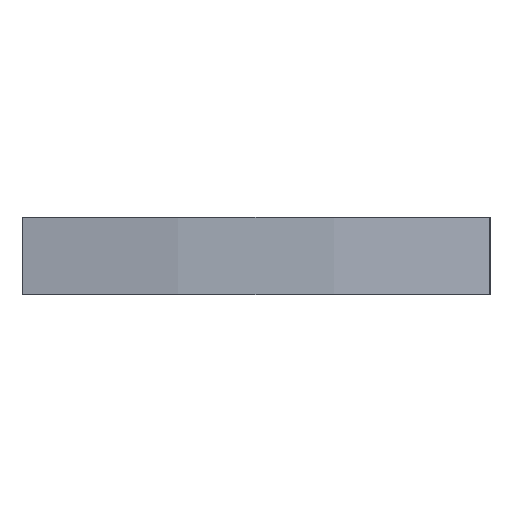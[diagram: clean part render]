
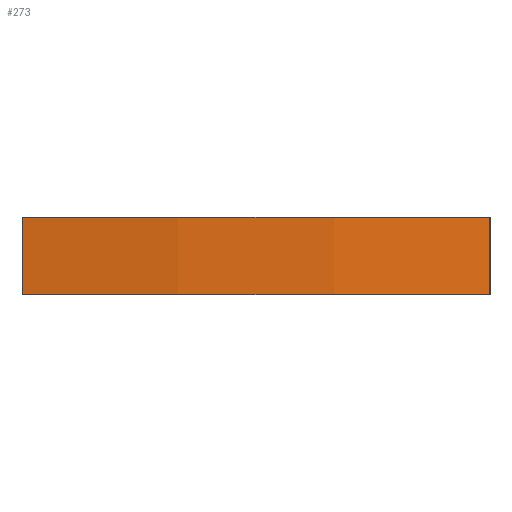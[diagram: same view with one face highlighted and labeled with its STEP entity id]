
A CAD part, left-side view. The second image highlights one B-rep face of the part: STEP entity #273.
In plain terms, the highlighted cylindrical face has radius 50 mm (diameter 100 mm), a partial arc.
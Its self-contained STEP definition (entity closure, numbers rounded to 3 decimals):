
#39=FACE_OUTER_BOUND('',#53,.T.);
#53=EDGE_LOOP('',(#219,#220,#221,#222));
#81=LINE('',#448,#105);
#82=LINE('',#454,#106);
#105=VECTOR('',#371,10.);
#106=VECTOR('',#378,10.);
#125=CIRCLE('',#312,50.);
#126=CIRCLE('',#313,50.);
#143=VERTEX_POINT('',#444);
#144=VERTEX_POINT('',#446);
#145=VERTEX_POINT('',#450);
#146=VERTEX_POINT('',#452);
#175=EDGE_CURVE('',#143,#144,#81,.T.);
#176=EDGE_CURVE('',#145,#143,#125,.T.);
#177=EDGE_CURVE('',#146,#144,#126,.T.);
#178=EDGE_CURVE('',#145,#146,#82,.T.);
#219=ORIENTED_EDGE('',*,*,#176,.T.);
#220=ORIENTED_EDGE('',*,*,#175,.T.);
#221=ORIENTED_EDGE('',*,*,#177,.F.);
#222=ORIENTED_EDGE('',*,*,#178,.F.);
#264=CYLINDRICAL_SURFACE('',#311,50.);
#273=ADVANCED_FACE('',(#39),#264,.T.);
#311=AXIS2_PLACEMENT_3D('',#449,#372,#373);
#312=AXIS2_PLACEMENT_3D('',#451,#374,#375);
#313=AXIS2_PLACEMENT_3D('',#453,#376,#377);
#371=DIRECTION('',(0.,0.,1.));
#372=DIRECTION('center_axis',(0.,0.,1.));
#373=DIRECTION('ref_axis',(-0.983,0.182,0.));
#374=DIRECTION('center_axis',(0.,0.,1.));
#375=DIRECTION('ref_axis',(-0.983,0.182,0.));
#376=DIRECTION('center_axis',(0.,0.,1.));
#377=DIRECTION('ref_axis',(-0.983,0.182,0.));
#378=DIRECTION('',(0.,0.,1.));
#444=CARTESIAN_POINT('',(-48.965,-9.1,0.));
#446=CARTESIAN_POINT('',(-48.965,-9.1,3.));
#448=CARTESIAN_POINT('',(-48.965,-9.1,0.));
#449=CARTESIAN_POINT('Origin',(0.2,0.,0.));
#450=CARTESIAN_POINT('',(-48.965,9.1,0.));
#451=CARTESIAN_POINT('Origin',(0.2,0.,0.));
#452=CARTESIAN_POINT('',(-48.965,9.1,3.));
#453=CARTESIAN_POINT('Origin',(0.2,0.,3.));
#454=CARTESIAN_POINT('',(-48.965,9.1,0.));
